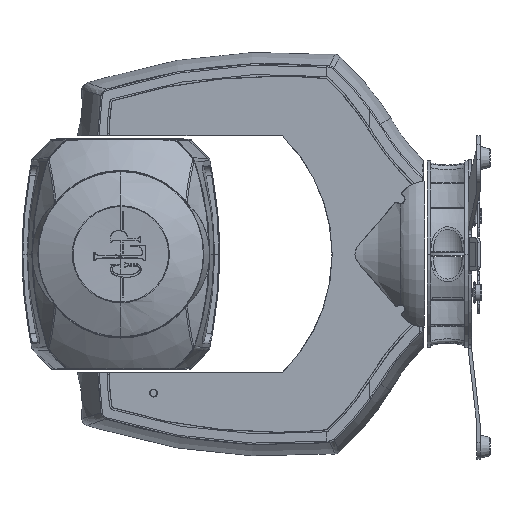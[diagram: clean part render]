
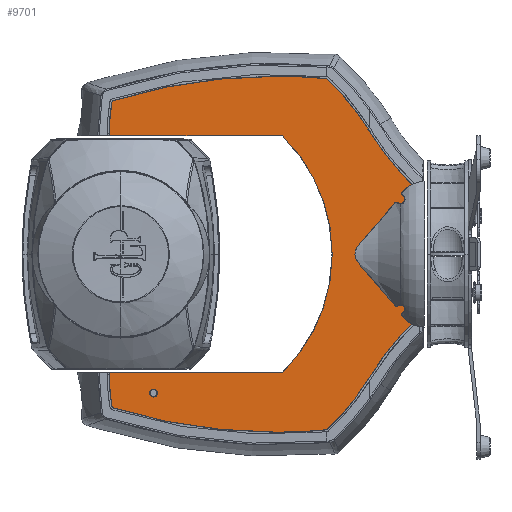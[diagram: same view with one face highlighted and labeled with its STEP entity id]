
A CAD part, left-side view. The second image highlights one B-rep face of the part: STEP entity #9701.
In plain terms, the highlighted planar face has unit normal (-1, 0, 0).
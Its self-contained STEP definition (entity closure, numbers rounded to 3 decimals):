
#9441=DIRECTION('',(0.,-1.,0.));
#9442=VECTOR('',#9441,200.9);
#9443=CARTESIAN_POINT('',(-67.,373.028,137.5));
#9444=LINE('',#9443,#9442);
#9448=CARTESIAN_POINT('',(-67.,180.522,143.5));
#9449=DIRECTION('',(1.,0.,0.));
#9450=DIRECTION('',(0.,1.,-0.031));
#9451=AXIS2_PLACEMENT_3D('',#9448,#9449,#9450);
#9456=CARTESIAN_POINT('',(-67.,180.522,-434.1));
#9457=DIRECTION('',(1.,0.,0.));
#9458=DIRECTION('',(0.,0.296,0.955));
#9459=AXIS2_PLACEMENT_3D('',#9456,#9457,#9458);
#9464=CARTESIAN_POINT('',(-67.,180.522,-434.1));
#9465=DIRECTION('',(1.,0.,0.));
#9466=DIRECTION('',(0.,0.,1.));
#9467=AXIS2_PLACEMENT_3D('',#9464,#9465,#9466);
#9472=CARTESIAN_POINT('',(-67.,325.,-12.5));
#9473=DIRECTION('',(1.,0.,0.));
#9474=DIRECTION('',(0.,-0.687,0.727));
#9475=AXIS2_PLACEMENT_3D('',#9472,#9473,#9474);
#9480=CARTESIAN_POINT('',(-67.,-209.512,315.067));
#9481=DIRECTION('',(-1.,0.,0.));
#9482=DIRECTION('',(0.,0.853,-0.523));
#9483=AXIS2_PLACEMENT_3D('',#9480,#9481,#9482);
#9488=DIRECTION('',(0.,0.,-1.));
#9489=VECTOR('',#9488,146.1);
#9490=CARTESIAN_POINT('',(-67.,13.5,73.05));
#9491=LINE('',#9490,#9489);
#9495=CARTESIAN_POINT('',(-67.,-209.512,-315.067));
#9496=DIRECTION('',(-1.,0.,0.));
#9497=DIRECTION('',(0.,0.678,0.735));
#9498=AXIS2_PLACEMENT_3D('',#9495,#9496,#9497);
#9503=CARTESIAN_POINT('',(-67.,325.,12.5));
#9504=DIRECTION('',(1.,0.,0.));
#9505=DIRECTION('',(0.,-0.853,-0.523));
#9506=AXIS2_PLACEMENT_3D('',#9503,#9504,#9505);
#9511=CARTESIAN_POINT('',(-67.,180.522,434.1));
#9512=DIRECTION('',(1.,0.,0.));
#9513=DIRECTION('',(0.,-0.094,-0.996));
#9514=AXIS2_PLACEMENT_3D('',#9511,#9512,#9513);
#9519=CARTESIAN_POINT('',(-67.,180.522,434.1));
#9520=DIRECTION('',(1.,0.,0.));
#9521=DIRECTION('',(0.,0.,-1.));
#9522=AXIS2_PLACEMENT_3D('',#9519,#9520,#9521);
#9527=CARTESIAN_POINT('',(-67.,180.522,-143.5));
#9528=DIRECTION('',(1.,0.,0.));
#9529=DIRECTION('',(0.,0.984,-0.18));
#9530=AXIS2_PLACEMENT_3D('',#9527,#9528,#9529);
#9535=CARTESIAN_POINT('',(-67.,306.85,0.));
#9536=DIRECTION('',(-1.,0.,0.));
#9537=DIRECTION('',(0.,-0.7,-0.714));
#9538=AXIS2_PLACEMENT_3D('',#9535,#9536,#9537);
#9543=CARTESIAN_POINT('',(-67.,306.85,0.));
#9544=DIRECTION('',(-1.,0.,0.));
#9545=DIRECTION('',(0.,-1.,0.));
#9546=AXIS2_PLACEMENT_3D('',#9543,#9544,#9545);
#9558=DIRECTION('',(0.,1.,0.));
#9559=VECTOR('',#9558,200.9);
#9560=CARTESIAN_POINT('',(-67.,172.128,-137.5));
#9561=LINE('',#9560,#9559);
#9619=CARTESIAN_POINT('',(-67.,373.028,137.5));
#9620=VERTEX_POINT('',#9619);
#9621=CARTESIAN_POINT('',(-67.,172.128,137.5));
#9622=VERTEX_POINT('',#9621);
#9623=CARTESIAN_POINT('',(-67.,369.978,178.157));
#9624=VERTEX_POINT('',#9623);
#9625=CARTESIAN_POINT('',(-67.,180.522,206.8));
#9626=VERTEX_POINT('',#9625);
#9627=CARTESIAN_POINT('',(-67.,120.501,203.983));
#9628=VERTEX_POINT('',#9627);
#9629=CARTESIAN_POINT('',(-67.,71.088,143.106));
#9630=VERTEX_POINT('',#9629);
#9631=CARTESIAN_POINT('',(-67.,13.5,73.05));
#9632=VERTEX_POINT('',#9631);
#9633=CARTESIAN_POINT('',(-67.,13.5,-73.05));
#9634=VERTEX_POINT('',#9633);
#9635=CARTESIAN_POINT('',(-67.,71.088,-143.106));
#9636=VERTEX_POINT('',#9635);
#9637=CARTESIAN_POINT('',(-67.,120.501,-203.983));
#9638=VERTEX_POINT('',#9637);
#9639=CARTESIAN_POINT('',(-67.,180.522,-206.8));
#9640=VERTEX_POINT('',#9639);
#9641=CARTESIAN_POINT('',(-67.,369.978,-178.157));
#9642=VERTEX_POINT('',#9641);
#9643=CARTESIAN_POINT('',(-67.,373.028,-137.5));
#9644=VERTEX_POINT('',#9643);
#9645=CARTESIAN_POINT('',(-67.,172.128,-137.5));
#9646=VERTEX_POINT('',#9645);
#9647=CARTESIAN_POINT('',(-67.,114.35,0.));
#9648=VERTEX_POINT('',#9647);
#9665=CARTESIAN_POINT('',(-67.,325.,0.));
#9666=DIRECTION('',(1.,0.,0.));
#9667=DIRECTION('',(0.,0.,1.));
#9668=AXIS2_PLACEMENT_3D('',#9665,#9666,#9667);
#9669=PLANE('',#9668);
#9670=ORIENTED_EDGE('',*,*,#9658,.F.);
#9672=ORIENTED_EDGE('',*,*,#9671,.T.);
#9674=ORIENTED_EDGE('',*,*,#9673,.T.);
#9676=ORIENTED_EDGE('',*,*,#9675,.T.);
#9678=ORIENTED_EDGE('',*,*,#9677,.T.);
#9680=ORIENTED_EDGE('',*,*,#9679,.T.);
#9682=ORIENTED_EDGE('',*,*,#9681,.T.);
#9684=ORIENTED_EDGE('',*,*,#9683,.T.);
#9686=ORIENTED_EDGE('',*,*,#9685,.T.);
#9688=ORIENTED_EDGE('',*,*,#9687,.T.);
#9690=ORIENTED_EDGE('',*,*,#9689,.T.);
#9692=ORIENTED_EDGE('',*,*,#9691,.T.);
#9694=ORIENTED_EDGE('',*,*,#9693,.F.);
#9696=ORIENTED_EDGE('',*,*,#9695,.T.);
#9698=ORIENTED_EDGE('',*,*,#9697,.T.);
#9699=EDGE_LOOP('',(#9670,#9672,#9674,#9676,#9678,#9680,#9682,#9684,#9686,#9688,
#9690,#9692,#9694,#9696,#9698));
#9700=FACE_OUTER_BOUND('',#9699,.F.);
#9452=CIRCLE('',#9451,192.6);
#9460=CIRCLE('',#9459,640.9);
#9468=CIRCLE('',#9467,640.9);
#9476=CIRCLE('',#9475,297.8);
#9484=CIRCLE('',#9483,329.1);
#9499=CIRCLE('',#9498,329.1);
#9507=CIRCLE('',#9506,297.8);
#9515=CIRCLE('',#9514,640.9);
#9523=CIRCLE('',#9522,640.9);
#9531=CIRCLE('',#9530,192.6);
#9539=CIRCLE('',#9538,192.5);
#9547=CIRCLE('',#9546,192.5);
#9658=EDGE_CURVE('',#9620,#9622,#9444,.T.);
#9671=EDGE_CURVE('',#9620,#9624,#9452,.T.);
#9673=EDGE_CURVE('',#9624,#9626,#9460,.T.);
#9675=EDGE_CURVE('',#9626,#9628,#9468,.T.);
#9677=EDGE_CURVE('',#9628,#9630,#9476,.T.);
#9679=EDGE_CURVE('',#9630,#9632,#9484,.T.);
#9681=EDGE_CURVE('',#9632,#9634,#9491,.T.);
#9683=EDGE_CURVE('',#9634,#9636,#9499,.T.);
#9685=EDGE_CURVE('',#9636,#9638,#9507,.T.);
#9687=EDGE_CURVE('',#9638,#9640,#9515,.T.);
#9689=EDGE_CURVE('',#9640,#9642,#9523,.T.);
#9691=EDGE_CURVE('',#9642,#9644,#9531,.T.);
#9693=EDGE_CURVE('',#9646,#9644,#9561,.T.);
#9695=EDGE_CURVE('',#9646,#9648,#9539,.T.);
#9697=EDGE_CURVE('',#9648,#9622,#9547,.T.);
#9701=ADVANCED_FACE('',(#9700),#9669,.F.);
